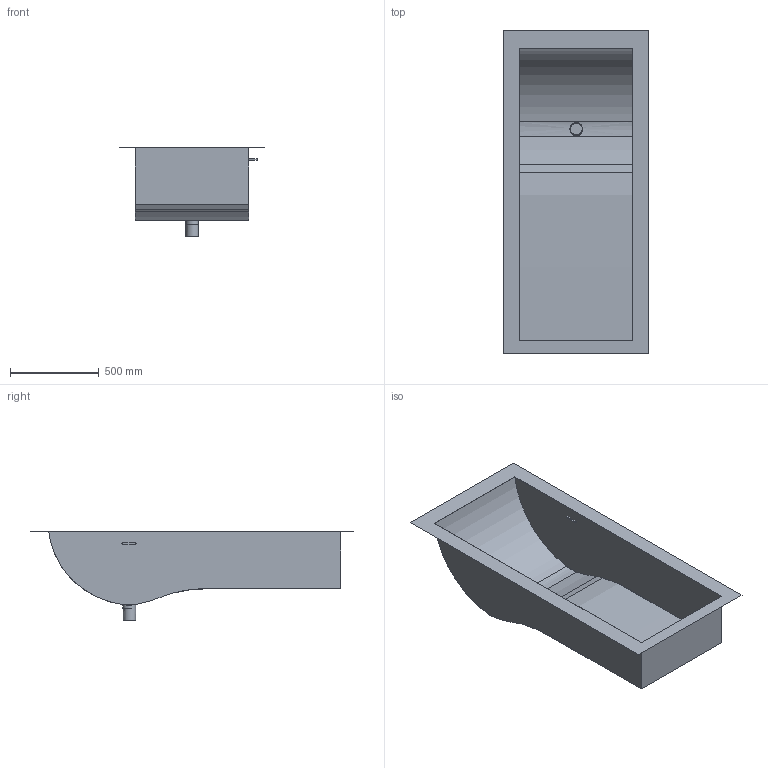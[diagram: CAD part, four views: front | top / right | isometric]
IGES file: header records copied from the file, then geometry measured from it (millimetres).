
Global section: file name: D:\Desktop\GIOVANNI\SCHEDE PRODOTTO\VASCHE\VASCHE DA INCASSO\JADE INCA\3D\JADE INCA.igs; native system: Rhinoceros ( Jan 17 2018 ); preprocessor: Trout Lake IGES 012 Jan 17 2018; date: 230526.153619; units: millimetre
Bounding box: 822.2 x 1824.85 x 501.11 mm (x, y, z)
Surface area: 2969403.6 mm2 (no closed solid volume)
Topology: 0 solids, 0 shells, 18 faces, 172 edges, 169 vertices
Faces by surface type: bspline 18
